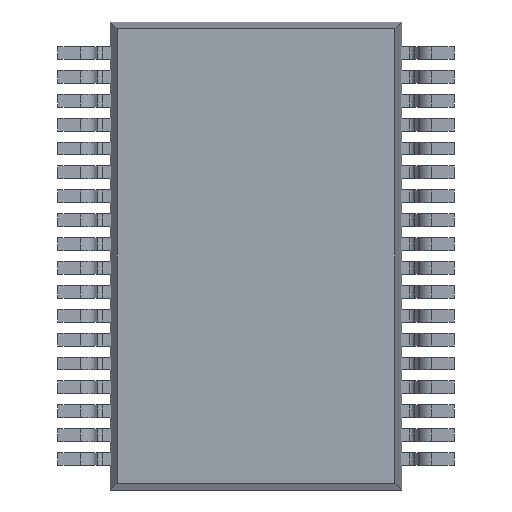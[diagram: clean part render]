
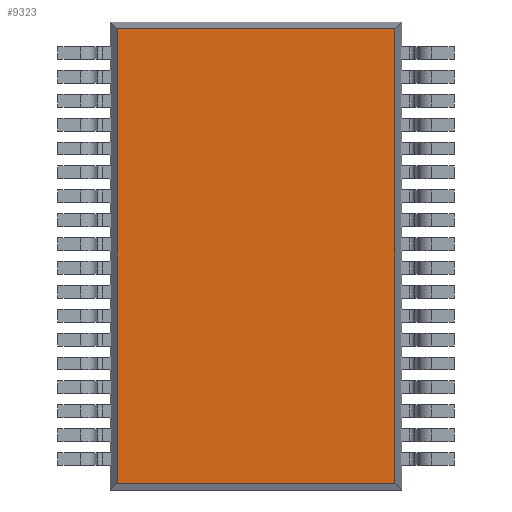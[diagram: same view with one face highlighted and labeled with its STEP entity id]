
A CAD part, front view. The second image highlights one B-rep face of the part: STEP entity #9323.
In plain terms, the highlighted planar face has unit normal (0, -1, 0).
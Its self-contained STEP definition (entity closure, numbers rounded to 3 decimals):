
#1700 = LINE ( 'NONE', #2513, #1703 ) ;
#1702 = LINE ( 'NONE', #2515, #1705 ) ;
#1703 = VECTOR ( 'NONE', #2514, 1000. ) ;
#1705 = VECTOR ( 'NONE', #2516, 1000. ) ;
#2513 = CARTESIAN_POINT ( 'NONE',  ( 3.05, 0.1, -4.759 ) ) ;
#2514 = DIRECTION ( 'NONE',  ( 1., 0., 0. ) ) ;
#2515 = CARTESIAN_POINT ( 'NONE',  ( 3.05, 0.1, 4.759 ) ) ;
#2516 = DIRECTION ( 'NONE',  ( -1., 0., 0. ) ) ;
#3194 = CARTESIAN_POINT ( 'NONE',  ( -2.909, 0.1, 4.9 ) ) ;
#3224 = DIRECTION ( 'NONE',  ( 0., 0., -1. ) ) ;
#4067 = LINE ( 'NONE', #3194, #4095 ) ;
#4095 = VECTOR ( 'NONE', #3224, 1000. ) ;
#7171 = CARTESIAN_POINT ( 'NONE',  ( -2.909, 0.1, 4.759 ) ) ;
#7173 = CARTESIAN_POINT ( 'NONE',  ( -2.909, 0.1, -4.759 ) ) ;
#7178 = CARTESIAN_POINT ( 'NONE',  ( 2.909, 0.1, 4.759 ) ) ;
#7186 = CARTESIAN_POINT ( 'NONE',  ( 2.909, 0.1, -4.759 ) ) ;
#8055 = ORIENTED_EDGE ( 'NONE', *, *, #10922, .T. ) ;
#8056 = ORIENTED_EDGE ( 'NONE', *, *, #10591, .T. ) ;
#8057 = ORIENTED_EDGE ( 'NONE', *, *, #8551, .T. ) ;
#8058 = ORIENTED_EDGE ( 'NONE', *, *, #10592, .T. ) ;
#8214 = EDGE_LOOP ( 'NONE', ( #8055, #8056, #8057, #8058 ) ) ;
#8551 = EDGE_CURVE ( 'NONE', #15405, #15397, #16015, .T. ) ;
#9323 = ADVANCED_FACE ( 'NONE', ( #21197 ), #20765, .F. ) ;
#9866 = CARTESIAN_POINT ( 'NONE',  ( 2.909, 0.1, 4.9 ) ) ;
#9868 = DIRECTION ( 'NONE',  ( 0., 0., 1. ) ) ;
#10591 = EDGE_CURVE ( 'NONE', #15392, #15405, #1700, .T. ) ;
#10592 = EDGE_CURVE ( 'NONE', #15397, #15390, #1702, .T. ) ;
#10922 = EDGE_CURVE ( 'NONE', #15390, #15392, #4067, .T. ) ;
#15390 = VERTEX_POINT ( 'NONE', #7171 ) ;
#15392 = VERTEX_POINT ( 'NONE', #7173 ) ;
#15397 = VERTEX_POINT ( 'NONE', #7178 ) ;
#15405 = VERTEX_POINT ( 'NONE', #7186 ) ;
#16015 = LINE ( 'NONE', #9866, #16018 ) ;
#16018 = VECTOR ( 'NONE', #9868, 1000. ) ;
#18311 = AXIS2_PLACEMENT_3D ( 'NONE', #20756, #20767, #20768 ) ;
#20756 = CARTESIAN_POINT ( 'NONE',  ( 0., 0.1, 0. ) ) ;
#20765 = PLANE ( 'NONE',  #18311 ) ;
#20767 = DIRECTION ( 'NONE',  ( 0., 1., 0. ) ) ;
#20768 = DIRECTION ( 'NONE',  ( 0., 0., 1. ) ) ;
#21197 = FACE_OUTER_BOUND ( 'NONE', #8214, .T. ) ;
